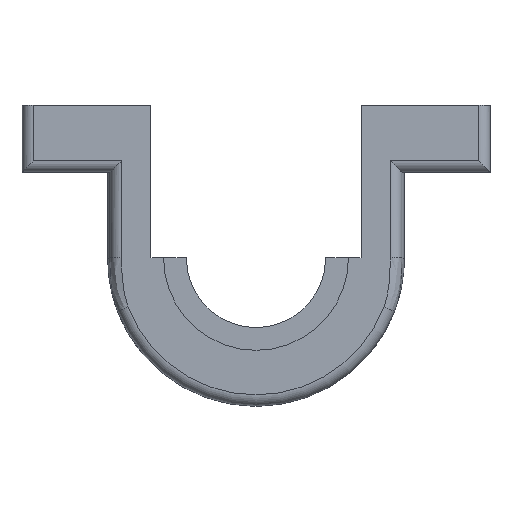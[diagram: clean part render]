
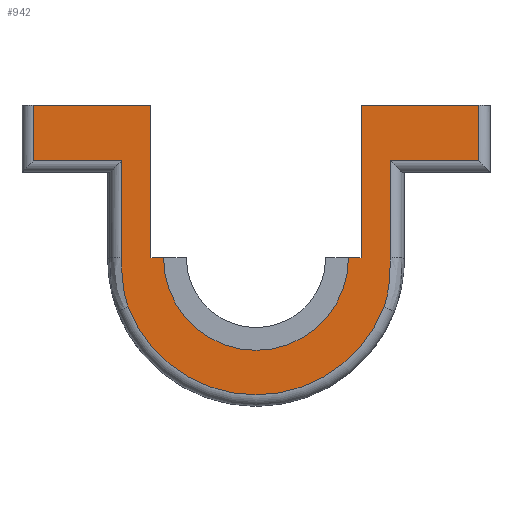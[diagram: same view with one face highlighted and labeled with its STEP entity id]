
A CAD part, top view. The second image highlights one B-rep face of the part: STEP entity #942.
In plain terms, the highlighted planar face has unit normal (0, 0, 1).
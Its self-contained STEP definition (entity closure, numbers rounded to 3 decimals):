
#29=PLANE('',#1020);
#57=LINE('',#1388,#151);
#60=LINE('',#1399,#154);
#62=LINE('',#1405,#156);
#64=LINE('',#1461,#158);
#65=LINE('',#1467,#159);
#67=LINE('',#1473,#161);
#93=LINE('',#1687,#187);
#99=LINE('',#1700,#193);
#101=LINE('',#1707,#195);
#102=LINE('',#1709,#196);
#103=LINE('',#1713,#197);
#104=LINE('',#1714,#198);
#151=VECTOR('',#1077,10.);
#154=VECTOR('',#1088,10.);
#156=VECTOR('',#1094,10.);
#158=VECTOR('',#1100,10.);
#159=VECTOR('',#1107,10.);
#161=VECTOR('',#1113,10.);
#187=VECTOR('',#1177,10.);
#193=VECTOR('',#1187,10.);
#195=VECTOR('',#1195,10.);
#196=VECTOR('',#1196,10.);
#197=VECTOR('',#1199,10.);
#198=VECTOR('',#1200,10.);
#263=B_SPLINE_CURVE_WITH_KNOTS('',3,(#1374,#1375,#1376,#1377,#1378,#1379),
 .UNSPECIFIED.,.F.,.F.,(4,1,1,4),(0.,0.125,0.25,
0.438),.UNSPECIFIED.);
#266=B_SPLINE_CURVE_WITH_KNOTS('',3,(#1451,#1452,#1453,#1454,#1455,#1456),
 .UNSPECIFIED.,.F.,.F.,(4,1,1,4),(0.,0.188,0.313,
0.438),.UNSPECIFIED.);
#295=FACE_OUTER_BOUND('',#352,.T.);
#352=EDGE_LOOP('',(#757,#758,#759,#760,#761,#762,#763,#764,#765,#766,#767,
#768,#769,#770,#771,#772));
#390=CIRCLE('',#979,12.);
#412=CIRCLE('',#1021,8.1);
#421=VERTEX_POINT('',#1328);
#422=VERTEX_POINT('',#1330);
#425=VERTEX_POINT('',#1372);
#426=VERTEX_POINT('',#1387);
#430=VERTEX_POINT('',#1397);
#432=VERTEX_POINT('',#1403);
#433=VERTEX_POINT('',#1442);
#436=VERTEX_POINT('',#1460);
#438=VERTEX_POINT('',#1466);
#440=VERTEX_POINT('',#1472);
#473=VERTEX_POINT('',#1686);
#478=VERTEX_POINT('',#1698);
#480=VERTEX_POINT('',#1706);
#481=VERTEX_POINT('',#1708);
#482=VERTEX_POINT('',#1710);
#483=VERTEX_POINT('',#1712);
#511=EDGE_CURVE('',#421,#422,#390,.T.);
#515=EDGE_CURVE('',#425,#421,#263,.T.);
#517=EDGE_CURVE('',#426,#425,#57,.T.);
#523=EDGE_CURVE('',#430,#426,#60,.T.);
#526=EDGE_CURVE('',#432,#430,#62,.T.);
#529=EDGE_CURVE('',#422,#433,#266,.T.);
#531=EDGE_CURVE('',#433,#436,#64,.T.);
#534=EDGE_CURVE('',#436,#438,#65,.T.);
#537=EDGE_CURVE('',#438,#440,#67,.T.);
#579=EDGE_CURVE('',#473,#440,#93,.T.);
#586=EDGE_CURVE('',#432,#478,#99,.T.);
#589=EDGE_CURVE('',#480,#478,#101,.T.);
#590=EDGE_CURVE('',#481,#480,#102,.T.);
#591=EDGE_CURVE('',#482,#481,#412,.T.);
#592=EDGE_CURVE('',#483,#482,#103,.T.);
#593=EDGE_CURVE('',#473,#483,#104,.T.);
#757=ORIENTED_EDGE('',*,*,#526,.F.);
#758=ORIENTED_EDGE('',*,*,#586,.T.);
#759=ORIENTED_EDGE('',*,*,#589,.F.);
#760=ORIENTED_EDGE('',*,*,#590,.F.);
#761=ORIENTED_EDGE('',*,*,#591,.F.);
#762=ORIENTED_EDGE('',*,*,#592,.F.);
#763=ORIENTED_EDGE('',*,*,#593,.F.);
#764=ORIENTED_EDGE('',*,*,#579,.T.);
#765=ORIENTED_EDGE('',*,*,#537,.F.);
#766=ORIENTED_EDGE('',*,*,#534,.F.);
#767=ORIENTED_EDGE('',*,*,#531,.F.);
#768=ORIENTED_EDGE('',*,*,#529,.F.);
#769=ORIENTED_EDGE('',*,*,#511,.F.);
#770=ORIENTED_EDGE('',*,*,#515,.F.);
#771=ORIENTED_EDGE('',*,*,#517,.F.);
#772=ORIENTED_EDGE('',*,*,#523,.F.);
#942=ADVANCED_FACE('',(#295),#29,.F.);
#979=AXIS2_PLACEMENT_3D('',#1331,#1067,#1068);
#1020=AXIS2_PLACEMENT_3D('',#1705,#1193,#1194);
#1021=AXIS2_PLACEMENT_3D('',#1711,#1197,#1198);
#1067=DIRECTION('center_axis',(0.,0.,-1.));
#1068=DIRECTION('ref_axis',(0.,-1.,0.));
#1077=DIRECTION('',(0.,-1.,0.));
#1088=DIRECTION('',(-1.,0.,0.));
#1094=DIRECTION('',(0.,-1.,0.));
#1100=DIRECTION('',(0.,1.,0.));
#1107=DIRECTION('',(-1.,0.,0.));
#1113=DIRECTION('',(0.,1.,0.));
#1177=DIRECTION('',(-1.,0.,0.));
#1187=DIRECTION('',(-1.,0.,0.));
#1193=DIRECTION('center_axis',(0.,0.,-1.));
#1194=DIRECTION('ref_axis',(-1.,0.,0.));
#1195=DIRECTION('',(0.,1.,0.));
#1196=DIRECTION('',(1.,0.,0.));
#1197=DIRECTION('center_axis',(0.,0.,1.));
#1198=DIRECTION('ref_axis',(1.,0.,0.));
#1199=DIRECTION('',(1.,0.,0.));
#1200=DIRECTION('',(0.,-1.,0.));
#1328=CARTESIAN_POINT('',(11.198,-4.314,11.5));
#1330=CARTESIAN_POINT('',(-11.198,-4.314,11.5));
#1331=CARTESIAN_POINT('Origin',(0.,0.,11.5));
#1372=CARTESIAN_POINT('',(11.782,0.,11.5));
#1374=CARTESIAN_POINT('Ctrl Pts',(11.782,0.,
11.5));
#1375=CARTESIAN_POINT('Ctrl Pts',(11.782,-0.417,11.5));
#1376=CARTESIAN_POINT('Ctrl Pts',(11.764,-1.251,11.5));
#1377=CARTESIAN_POINT('Ctrl Pts',(11.641,-2.705,11.5));
#1378=CARTESIAN_POINT('Ctrl Pts',(11.423,-3.73,11.5));
#1379=CARTESIAN_POINT('Ctrl Pts',(11.198,-4.314,11.5));
#1387=CARTESIAN_POINT('',(11.782,8.5,11.5));
#1388=CARTESIAN_POINT('',(11.782,7.5,11.5));
#1397=CARTESIAN_POINT('',(19.5,8.5,11.5));
#1399=CARTESIAN_POINT('',(6.481,8.5,11.5));
#1403=CARTESIAN_POINT('',(19.5,13.35,11.5));
#1405=CARTESIAN_POINT('',(19.5,3.983,11.5));
#1442=CARTESIAN_POINT('',(-11.782,0.,11.5));
#1451=CARTESIAN_POINT('Ctrl Pts',(-11.198,-4.314,11.5));
#1452=CARTESIAN_POINT('Ctrl Pts',(-11.423,-3.73,11.5));
#1453=CARTESIAN_POINT('Ctrl Pts',(-11.641,-2.705,11.5));
#1454=CARTESIAN_POINT('Ctrl Pts',(-11.764,-1.251,11.5));
#1455=CARTESIAN_POINT('Ctrl Pts',(-11.782,-0.417,
11.5));
#1456=CARTESIAN_POINT('Ctrl Pts',(-11.782,0.,11.5));
#1460=CARTESIAN_POINT('',(-11.782,8.5,11.5));
#1461=CARTESIAN_POINT('',(-11.782,7.5,11.5));
#1466=CARTESIAN_POINT('',(-19.5,8.5,11.5));
#1467=CARTESIAN_POINT('',(-10.269,8.5,11.5));
#1472=CARTESIAN_POINT('',(-19.5,13.35,11.5));
#1473=CARTESIAN_POINT('',(-19.5,6.983,11.5));
#1686=CARTESIAN_POINT('',(-9.2,13.35,11.5));
#1687=CARTESIAN_POINT('',(-0.019,13.35,11.5));
#1698=CARTESIAN_POINT('',(9.2,13.35,11.5));
#1700=CARTESIAN_POINT('',(-0.019,13.35,11.5));
#1705=CARTESIAN_POINT('Origin',(-0.039,0.465,11.5));
#1706=CARTESIAN_POINT('',(9.2,0.,11.5));
#1707=CARTESIAN_POINT('',(9.2,6.983,11.5));
#1708=CARTESIAN_POINT('',(8.1,0.,11.5));
#1709=CARTESIAN_POINT('',(3.031,0.,11.5));
#1710=CARTESIAN_POINT('',(-8.1,0.,11.5));
#1711=CARTESIAN_POINT('Origin',(0.,0.,11.5));
#1712=CARTESIAN_POINT('',(-9.2,0.,11.5));
#1713=CARTESIAN_POINT('',(-4.069,0.,11.5));
#1714=CARTESIAN_POINT('',(-9.2,0.233,11.5));
